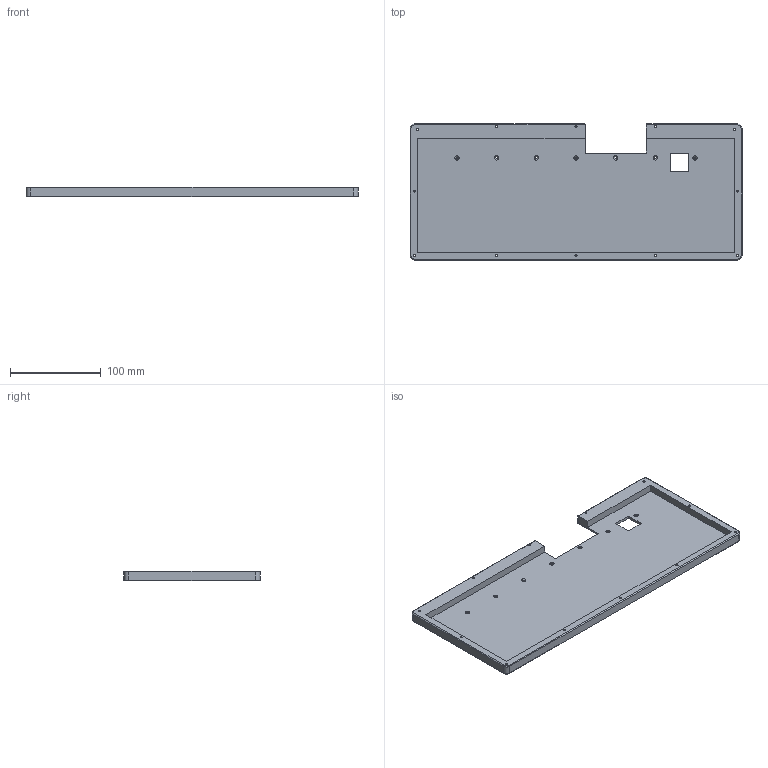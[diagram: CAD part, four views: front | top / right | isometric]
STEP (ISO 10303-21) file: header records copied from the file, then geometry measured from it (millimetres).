
FILE_DESCRIPTION(('HOOPS Exchange Step'),'2;1');
FILE_NAME('C:\Users\juanj\AppData\Local\Packages\Shapr3D.Shapr3D_j403pzjkqtqbj\TempState\export\temp_export','2024-12-14T23:59:03+01:00',('juanj'),('Shapr3D Limited'),'HOOPS Exchange 2024.6','Shapr3D','Authorized');
FILE_SCHEMA( ('AP242_MANAGED_MODEL_BASED_3D_ENGINEERING_MIM_LF {1 0 10303 442 1 1 4 }') );
Length unit declared in the file: millimetre
Products named in the file (1): Bottom
Bounding box: 365.66 x 149.82 x 11 mm (x, y, z)
Volume: 232637.5 mm3; surface area: 122620 mm2
Topology: 1 solids, 1 shells, 91 faces, 264 edges, 170 vertices
Faces by surface type: cylinder 30, plane 20, cone 19, bspline 18, torus 4
Full cylindrical faces by diameter (mm): 2.25 x12, 2.65 x7
Entity records: 3943 total; most frequent: CARTESIAN_POINT 1455, ORIENTED_EDGE 524, DIRECTION 504, EDGE_CURVE 262, AXIS2_PLACEMENT_3D 194, VERTEX_POINT 170, EDGE_LOOP 128, FACE_BOUND 128
